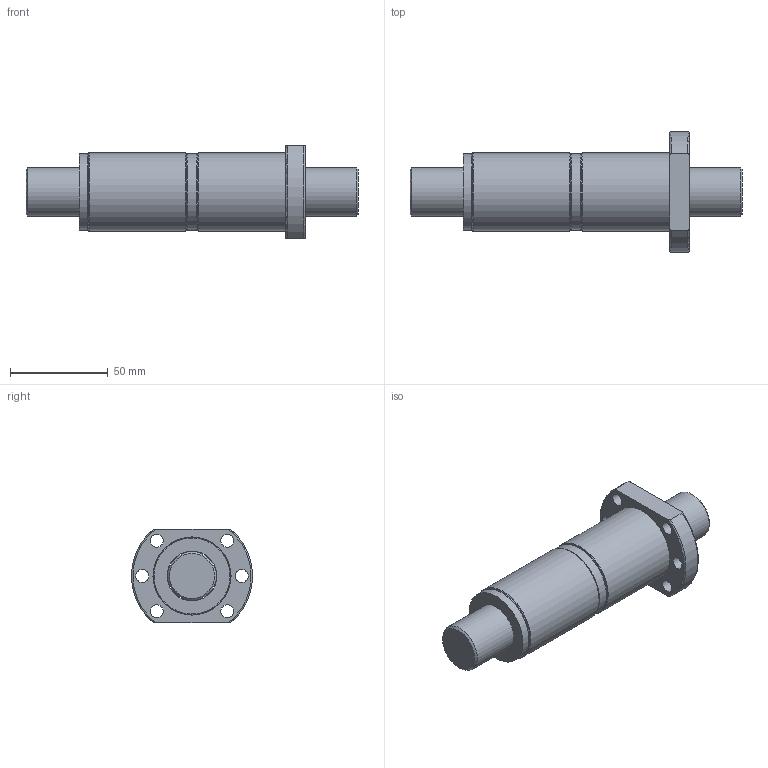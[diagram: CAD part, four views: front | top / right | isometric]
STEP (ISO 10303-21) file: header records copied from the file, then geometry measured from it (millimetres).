
FILE_DESCRIPTION(/* description */ (''),/* implementation_level */ '2;1');
FILE_NAME(/* name */ 'DFS2508',/* time_stamp */ '2007-10-26T13:37:55+08:00',/* author */ (''),/* organization */ (''),/* preprocessor_version */ 'ST-DEVELOPER v9',/* originating_system */ 'UGS - NX 3.0',/* authorisation */ '');
FILE_SCHEMA (('CONFIG_CONTROL_DESIGN'));
Length unit declared in the file: millimetre
Products named in the file (1): jaso15A4i32a
Bounding box: 170 x 61.8 x 48 mm (x, y, z)
Volume: 173453.7 mm3; surface area: 51783.5 mm2
Topology: 7 solids, 7 shells, 51 faces, 103 edges, 68 vertices
Faces by surface type: cylinder 22, plane 18, torus 9, cone 2
Full cylindrical faces by diameter (mm): 6.6 x6, 25 x1, 25.3 x1, 25.5 x2, 27 x2, 27.5 x1, 39 x4, 40 x3
Entity records: 1420 total; most frequent: CARTESIAN_POINT 324, DIRECTION 222, ORIENTED_EDGE 142, AXIS2_PLACEMENT_3D 107, EDGE_LOOP 104, FACE_BOUND 78, EDGE_CURVE 71, VERTEX_POINT 63
